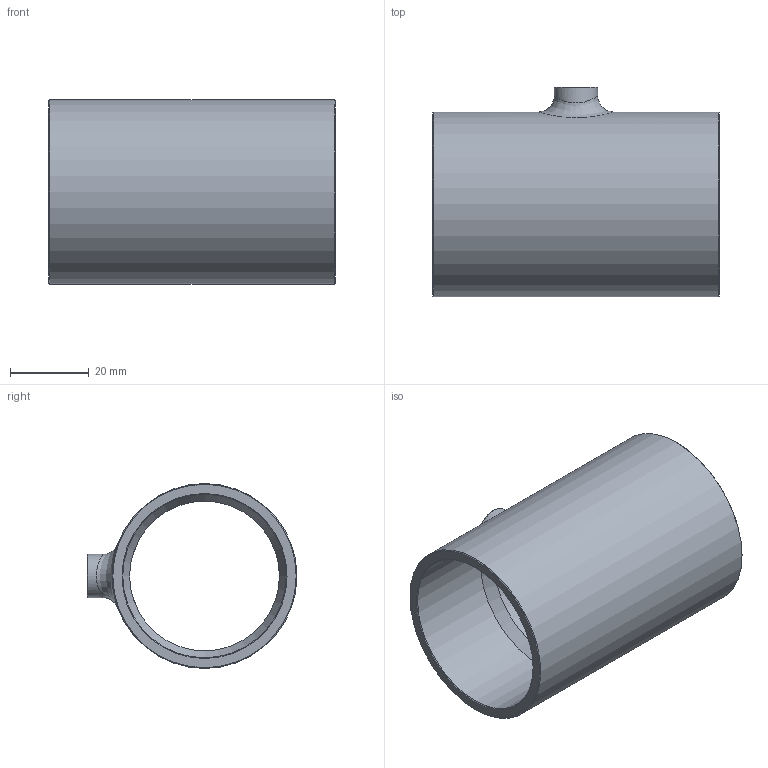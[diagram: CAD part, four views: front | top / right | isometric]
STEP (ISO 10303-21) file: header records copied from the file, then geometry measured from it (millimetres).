
FILE_DESCRIPTION((''),'2;1');
FILE_NAME('G:\SANHA-Ternat\Technik\Management\Bouwmaten + markeringen\z-maattekeningen 3D\29000s\2913015814158_3d.stp','2018-06-04T09:48:15',('vdvijverd'),(''),'Autodesk Inventor 2009','Autodesk Inventor 2009','');
FILE_SCHEMA(('AUTOMOTIVE_DESIGN { 1 0 10303 214 1 1 1 1 }'));
Length unit declared in the file: millimetre
Products named in the file (1): 2913015814158
Bounding box: 72.6 x 53.25 x 46.9 mm (x, y, z)
Volume: 32980.9 mm3; surface area: 21027.2 mm2
Topology: 1 solids, 1 shells, 21 faces, 48 edges, 29 vertices
Faces by surface type: cone 8, cylinder 6, bspline 4, plane 3
Full cylindrical faces by diameter (mm): 5.5 x1, 6.47 x1, 11.03 x1, 38 x1, 41.455 x1, 46.9 x1
Entity records: 1574 total; most frequent: CARTESIAN_POINT 1188, DIRECTION 76, ORIENTED_EDGE 48, EDGE_LOOP 42, AXIS2_PLACEMENT_3D 38, EDGE_CURVE 24, VERTEX_POINT 22, FACE_OUTER_BOUND 21
